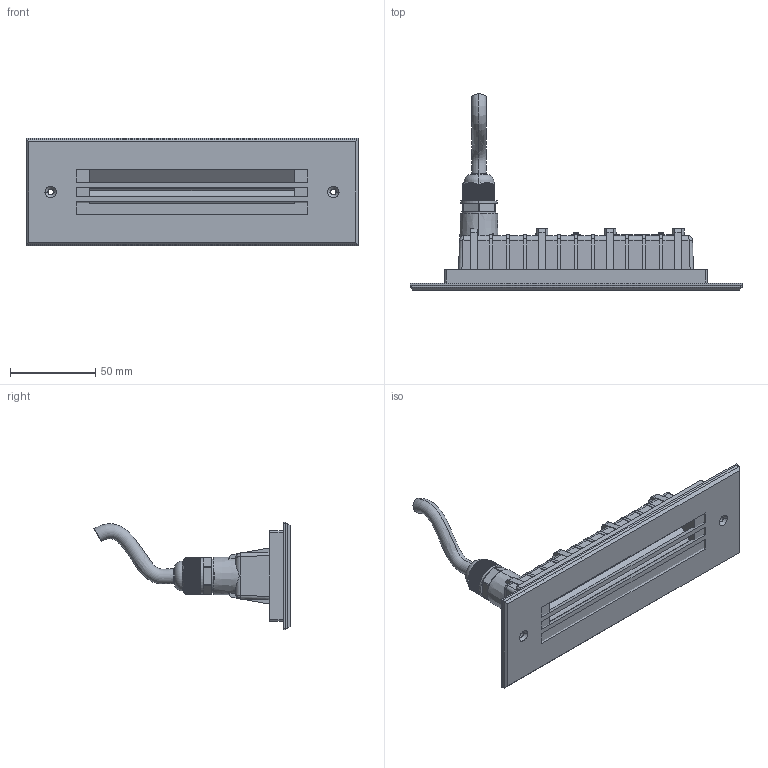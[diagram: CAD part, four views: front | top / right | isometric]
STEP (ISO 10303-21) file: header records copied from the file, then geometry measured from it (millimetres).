
FILE_DESCRIPTION((''),'2;1');
FILE_NAME('2FL_03_ASM','2018-03-30T',('Administrator'),(''),'CREO PARAMETRIC BY PTC INC, 2015290','CREO PARAMETRIC BY PTC INC, 2015290','');
FILE_SCHEMA(('AUTOMOTIVE_DESIGN { 1 0 10303 214 1 1 1 1 }'));
Length unit declared in the file: millimetre
Products named in the file (18): 2BL-A____-46297_1; 2FL_MG_03; PC_BAN_03; GUANGYUANBAN_03; ZHICHENGBAN_03; ICRFC0401; GUANGYUAN-03_ASM; MIFENGQUAN_03; SCREW-M3-4_1; PAD_1; FANGUANGSAI-1_1; FANGSHUISAI_1; ASM0001_ASM_1_ASM; MANIFOLEF_1; 1FL_HUXING_PC; 1FL_HUXING_PC2; 1FL_B_MG; 2FL_03_ASM
Assembly tree (21 placements, depth 3):
  2FL_03_ASM
    2BL-A____-46297_1
    2FL_MG_03
    PC_BAN_03
    GUANGYUAN-03_ASM
      GUANGYUANBAN_03
      ZHICHENGBAN_03
      ICRFC0401  x3
    MIFENGQUAN_03
    SCREW-M3-4_1  x3
    ASM0001_ASM_1_ASM
      PAD_1
      FANGUANGSAI-1_1
      FANGSHUISAI_1
    MANIFOLEF_1
    1FL_HUXING_PC
    1FL_HUXING_PC2
    1FL_B_MG
Bounding box: 195 x 115.16 x 63 mm (x, y, z)
Volume: 167918.3 mm3; surface area: 132325.5 mm2
Topology: 19 solids, 19 shells, 1382 faces, 3651 edges, 2334 vertices
Faces by surface type: plane 906, cylinder 318, cone 77, bspline 50, torus 29, extrusion 2
Entity records: 53121 total; most frequent: CARTESIAN_POINT 17276, ORIENTED_EDGE 6398, DIRECTION 5657, EDGE_CURVE 3199, VERTEX_POINT 2097, VECTOR 2095, LINE 2093, PRESENTATION_STYLE_ASSIGNMENT 1820
